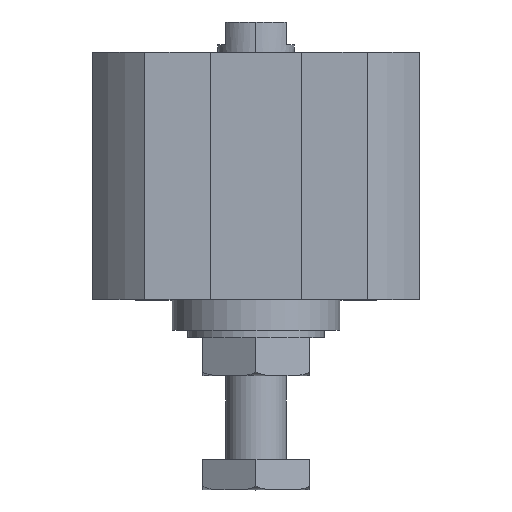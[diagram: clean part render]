
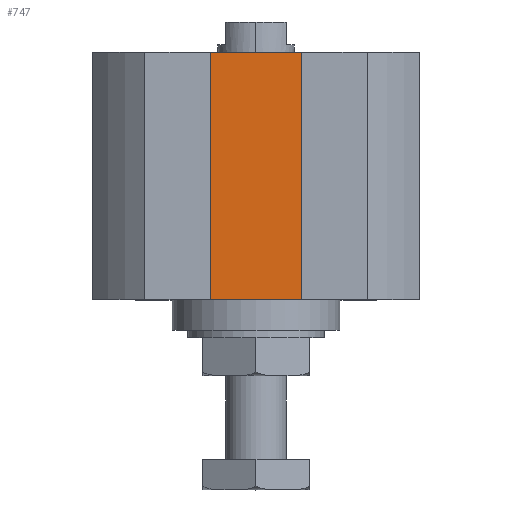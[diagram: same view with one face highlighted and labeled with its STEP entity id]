
A CAD part, top view. The second image highlights one B-rep face of the part: STEP entity #747.
In plain terms, the highlighted planar face has unit normal (0, 0, 1).
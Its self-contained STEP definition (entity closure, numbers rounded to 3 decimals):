
#97 = EDGE_CURVE ( 'NONE', #3121, #3784, #1364, .T. ) ;
#221 = FACE_OUTER_BOUND ( 'NONE', #1467, .T. ) ;
#374 = EDGE_CURVE ( 'NONE', #914, #3121, #4040, .T. ) ;
#619 = DIRECTION ( 'NONE',  ( 0., 1., 0. ) ) ;
#747 = ADVANCED_FACE ( 'NONE', ( #221 ), #3116, .T. ) ;
#786 = LINE ( 'NONE', #1737, #3506 ) ;
#914 = VERTEX_POINT ( 'NONE', #1868 ) ;
#1002 = ORIENTED_EDGE ( 'NONE', *, *, #3479, .T. ) ;
#1133 = CARTESIAN_POINT ( 'NONE',  ( 0., -32.5, 14. ) ) ;
#1364 = LINE ( 'NONE', #3581, #3869 ) ;
#1456 = VECTOR ( 'NONE', #619, 1000. ) ;
#1467 = EDGE_LOOP ( 'NONE', ( #2456, #3891, #1002, #3211 ) ) ;
#1737 = CARTESIAN_POINT ( 'NONE',  ( 0., -32.5, 14. ) ) ;
#1804 = LINE ( 'NONE', #2639, #4125 ) ;
#1868 = CARTESIAN_POINT ( 'NONE',  ( -7.7, -32.5, 14. ) ) ;
#1912 = CARTESIAN_POINT ( 'NONE',  ( -7.7, -32.5, 14. ) ) ;
#1970 = CARTESIAN_POINT ( 'NONE',  ( 7.7, 0., 14. ) ) ;
#2151 = DIRECTION ( 'NONE',  ( 0., 0., 1. ) ) ;
#2180 = DIRECTION ( 'NONE',  ( 1., 0., 0. ) ) ;
#2305 = DIRECTION ( 'NONE',  ( 1., 0., 0. ) ) ;
#2456 = ORIENTED_EDGE ( 'NONE', *, *, #97, .F. ) ;
#2639 = CARTESIAN_POINT ( 'NONE',  ( 7.7, -32.5, 14. ) ) ;
#2663 = CARTESIAN_POINT ( 'NONE',  ( 7.7, -32.5, 14. ) ) ;
#2745 = DIRECTION ( 'NONE',  ( 1., 0., 0. ) ) ;
#3084 = VERTEX_POINT ( 'NONE', #2663 ) ;
#3087 = AXIS2_PLACEMENT_3D ( 'NONE', #1133, #2151, #2180 ) ;
#3116 = PLANE ( 'NONE',  #3087 ) ;
#3121 = VERTEX_POINT ( 'NONE', #3947 ) ;
#3183 = EDGE_CURVE ( 'NONE', #3084, #3784, #1804, .T. ) ;
#3211 = ORIENTED_EDGE ( 'NONE', *, *, #3183, .T. ) ;
#3479 = EDGE_CURVE ( 'NONE', #914, #3084, #786, .T. ) ;
#3506 = VECTOR ( 'NONE', #2745, 1000. ) ;
#3581 = CARTESIAN_POINT ( 'NONE',  ( 0., 0., 14. ) ) ;
#3784 = VERTEX_POINT ( 'NONE', #1970 ) ;
#3869 = VECTOR ( 'NONE', #2305, 1000. ) ;
#3891 = ORIENTED_EDGE ( 'NONE', *, *, #374, .F. ) ;
#3947 = CARTESIAN_POINT ( 'NONE',  ( -7.7, 0., 14. ) ) ;
#4040 = LINE ( 'NONE', #1912, #1456 ) ;
#4125 = VECTOR ( 'NONE', #4246, 1000. ) ;
#4246 = DIRECTION ( 'NONE',  ( 0., 1., 0. ) ) ;
